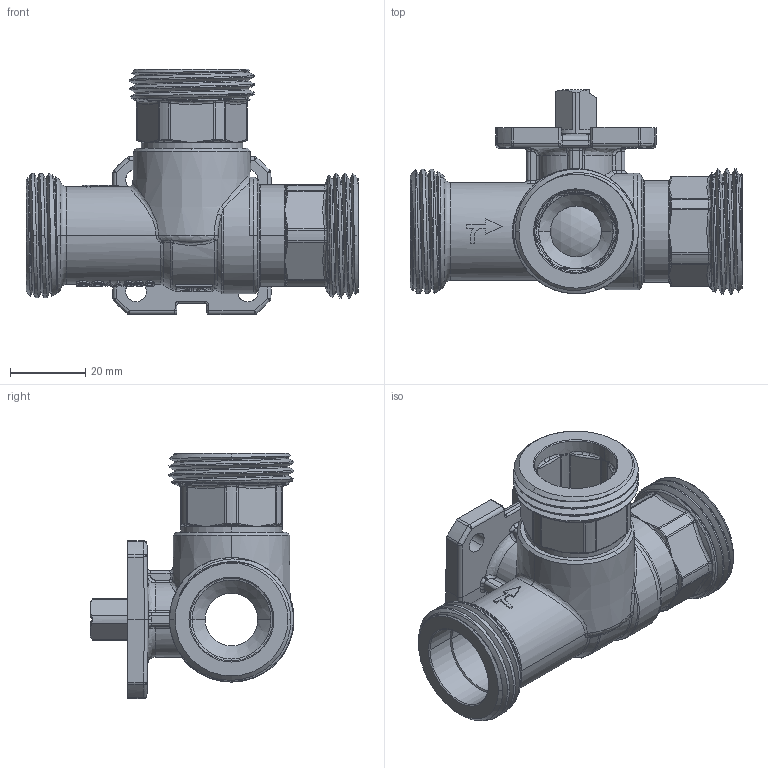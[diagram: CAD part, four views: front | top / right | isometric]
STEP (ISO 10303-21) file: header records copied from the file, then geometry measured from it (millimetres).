
FILE_DESCRIPTION((''),'2;1');
FILE_NAME('H988FT015_2346_SW0001','2015-05-15T',('61graziano'),('Vir spa'),'PRO/ENGINEER BY PARAMETRIC TECHNOLOGY CORPORATION, 2010280','PRO/ENGINEER BY PARAMETRIC TECHNOLOGY CORPORATION, 2010280','');
FILE_SCHEMA(('CONFIG_CONTROL_DESIGN'));
Products named in the file (1): H988FT015_2346_SW0001
Bounding box: 88.25 x 54.23 x 65.15 mm (x, y, z)
Volume: 54590.6 mm3; surface area: 31644.3 mm2
Topology: 1 solids, 1 shells, 1254 faces, 3060 edges, 1859 vertices
Faces by surface type: cylinder 289, bspline 272, plane 230, extrusion 179, torus 143, cone 106, sphere 35
Entity records: 56018 total; most frequent: CARTESIAN_POINT 29296, ORIENTED_EDGE 6120, DIRECTION 4656, EDGE_CURVE 3060, VERTEX_POINT 1859, AXIS2_PLACEMENT_3D 1811, B_SPLINE_CURVE_WITH_KNOTS 1376, EDGE_LOOP 1323
